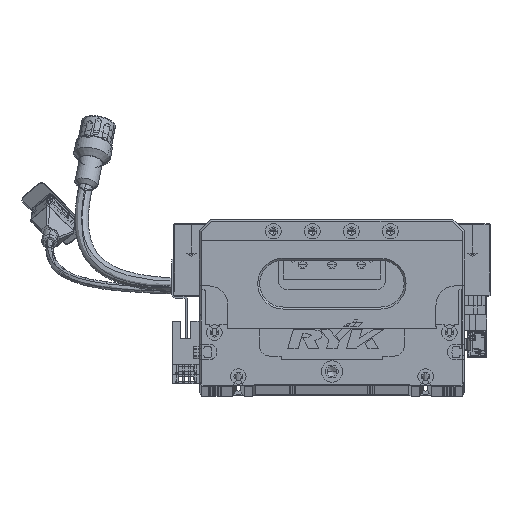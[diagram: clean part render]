
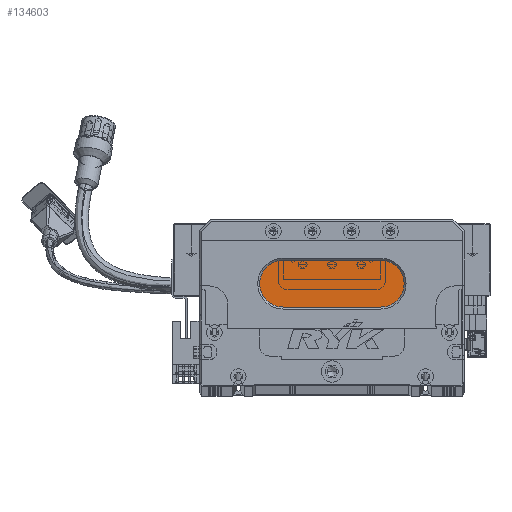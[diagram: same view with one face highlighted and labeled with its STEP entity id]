
A CAD part, top view. The second image highlights one B-rep face of the part: STEP entity #134603.
In plain terms, the highlighted planar face has unit normal (0, 0, 1) as drawn and (0, 0, -1) by its records, which use the part's own axes.
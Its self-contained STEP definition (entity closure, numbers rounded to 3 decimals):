
#1062 = DIRECTION ( 'NONE',  ( 0., 0., -1. ) ) ;
#6476 = EDGE_CURVE ( 'NONE', #46467, #110170, #127861, .T. ) ;
#16905 = VERTEX_POINT ( 'NONE', #101379 ) ;
#18918 = DIRECTION ( 'NONE',  ( -1., 0., 0. ) ) ;
#21143 = CARTESIAN_POINT ( 'NONE',  ( 93., 52., 13. ) ) ;
#22052 = CIRCLE ( 'NONE', #90667, 12. ) ;
#22973 = AXIS2_PLACEMENT_3D ( 'NONE', #29270, #41974, #18918 ) ;
#23490 = CIRCLE ( 'NONE', #32144, 12. ) ;
#23630 = EDGE_CURVE ( 'NONE', #16905, #46467, #60167, .T. ) ;
#25575 = DIRECTION ( 'NONE',  ( 1., 0., 0. ) ) ;
#28297 = ORIENTED_EDGE ( 'NONE', *, *, #138579, .T. ) ;
#29270 = CARTESIAN_POINT ( 'NONE',  ( 43., 52., 13. ) ) ;
#30057 = CARTESIAN_POINT ( 'NONE',  ( 43., 64., 13. ) ) ;
#32144 = AXIS2_PLACEMENT_3D ( 'NONE', #99987, #1062, #120736 ) ;
#33137 = CARTESIAN_POINT ( 'NONE',  ( 93., 64., 13. ) ) ;
#35737 = EDGE_CURVE ( 'NONE', #86347, #40347, #100512, .T. ) ;
#40347 = VERTEX_POINT ( 'NONE', #33137 ) ;
#41974 = DIRECTION ( 'NONE',  ( 0., 0., -1. ) ) ;
#42374 = DIRECTION ( 'NONE',  ( 0., 0., -1. ) ) ;
#43102 = VECTOR ( 'NONE', #25575, 1000. ) ;
#44240 = DIRECTION ( 'NONE',  ( -1., 0., 0. ) ) ;
#46467 = VERTEX_POINT ( 'NONE', #47997 ) ;
#47757 = CARTESIAN_POINT ( 'NONE',  ( 93., 64., 13. ) ) ;
#47997 = CARTESIAN_POINT ( 'NONE',  ( 43., 40., 13. ) ) ;
#56463 = CARTESIAN_POINT ( 'NONE',  ( 31., 52., 13. ) ) ;
#58658 = AXIS2_PLACEMENT_3D ( 'NONE', #21143, #42374, #129137 ) ;
#60167 = LINE ( 'NONE', #121124, #120963 ) ;
#64747 = EDGE_CURVE ( 'NONE', #40347, #16905, #23490, .T. ) ;
#74017 = FACE_OUTER_BOUND ( 'NONE', #106005, .T. ) ;
#86347 = VERTEX_POINT ( 'NONE', #30057 ) ;
#90667 = AXIS2_PLACEMENT_3D ( 'NONE', #126527, #138740, #138280 ) ;
#99987 = CARTESIAN_POINT ( 'NONE',  ( 93., 52., 13. ) ) ;
#100512 = LINE ( 'NONE', #47757, #43102 ) ;
#101379 = CARTESIAN_POINT ( 'NONE',  ( 93., 40., 13. ) ) ;
#106005 = EDGE_LOOP ( 'NONE', ( #133030, #130991, #123468, #28297, #131394 ) ) ;
#110170 = VERTEX_POINT ( 'NONE', #56463 ) ;
#118758 = PLANE ( 'NONE',  #58658 ) ;
#120736 = DIRECTION ( 'NONE',  ( -1., 0., 0. ) ) ;
#120963 = VECTOR ( 'NONE', #44240, 1000. ) ;
#121124 = CARTESIAN_POINT ( 'NONE',  ( 93., 40., 13. ) ) ;
#123468 = ORIENTED_EDGE ( 'NONE', *, *, #6476, .T. ) ;
#126527 = CARTESIAN_POINT ( 'NONE',  ( 43., 52., 13. ) ) ;
#127861 = CIRCLE ( 'NONE', #22973, 12. ) ;
#129137 = DIRECTION ( 'NONE',  ( -1., 0., 0. ) ) ;
#130991 = ORIENTED_EDGE ( 'NONE', *, *, #23630, .T. ) ;
#131394 = ORIENTED_EDGE ( 'NONE', *, *, #35737, .T. ) ;
#133030 = ORIENTED_EDGE ( 'NONE', *, *, #64747, .T. ) ;
#134603 = ADVANCED_FACE ( 'NONE', ( #74017 ), #118758, .T. ) ;
#138280 = DIRECTION ( 'NONE',  ( -1., 0., 0. ) ) ;
#138579 = EDGE_CURVE ( 'NONE', #110170, #86347, #22052, .T. ) ;
#138740 = DIRECTION ( 'NONE',  ( 0., 0., -1. ) ) ;
